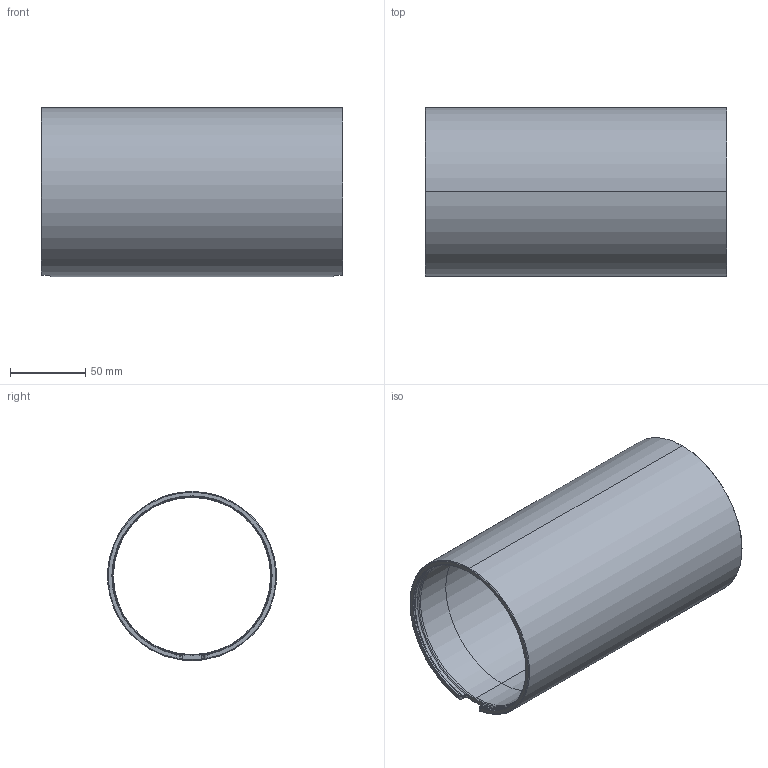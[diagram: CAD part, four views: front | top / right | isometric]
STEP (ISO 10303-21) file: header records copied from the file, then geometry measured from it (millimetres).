
FILE_DESCRIPTION (( 'STEP AP214' ), '1' );
FILE_NAME ('WTE4-M-LOCKING-TUBE-200-R2.STEP', '2022-02-01T07:27:04', ( '' ), ( '' ), 'SwSTEP 2.0', 'SolidWorks 2020', '' );
FILE_SCHEMA (( 'AUTOMOTIVE_DESIGN' ));
Length unit declared in the file: millimetre
Products named in the file (1): WTE4-M-LOCKING-TUBE-200-R2
Bounding box: 200 x 111.63 x 112 mm (x, y, z)
Volume: 261860.9 mm3; surface area: 137925.7 mm2
Topology: 1 solids, 1 shells, 70 faces, 180 edges, 110 vertices
Faces by surface type: cylinder 20, bspline 16, torus 12, plane 12, cone 10
Entity records: 4652 total; most frequent: CARTESIAN_POINT 3103, ORIENTED_EDGE 360, DIRECTION 258, EDGE_CURVE 180, AXIS2_PLACEMENT_3D 111, VERTEX_POINT 110, B_SPLINE_CURVE_WITH_KNOTS 84, EDGE_LOOP 70
